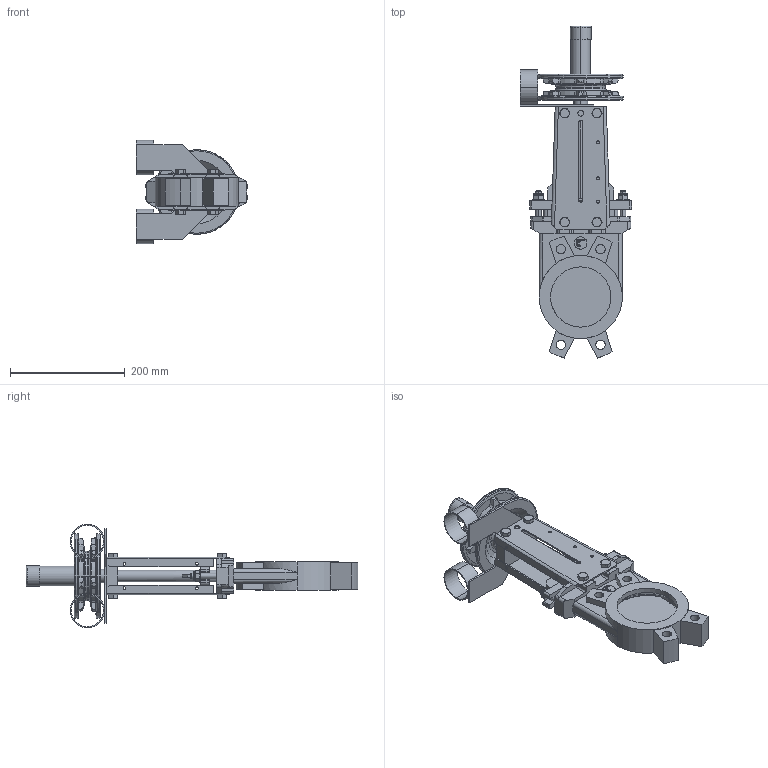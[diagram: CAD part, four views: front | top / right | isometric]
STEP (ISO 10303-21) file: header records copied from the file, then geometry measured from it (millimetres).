
FILE_DESCRIPTION (( 'STEP AP203' ), '1' );
FILE_NAME ('VG C DN100.STEP', '2010-01-27T05:50:14', ( 'farex' ), ( '' ), 'SwSTEP 2.0', 'SolidWorks 2009', '' );
FILE_SCHEMA (( 'CONFIG_CONTROL_DESIGN' ));
Length unit declared in the file: millimetre
Products named in the file (1): VG C DN100
Bounding box: 193.5 x 578.16 x 180.3 mm (x, y, z)
Volume: 1810391.6 mm3; surface area: 453740.1 mm2
Topology: 6 solids, 6 shells, 870 faces, 2302 edges, 1492 vertices
Faces by surface type: plane 396, cylinder 241, cone 159, bspline 56, torus 18
Entity records: 31265 total; most frequent: CARTESIAN_POINT 10082, ORIENTED_EDGE 4604, DIRECTION 4158, EDGE_CURVE 2302, AXIS2_PLACEMENT_3D 1522, VERTEX_POINT 1492, VECTOR 1114, LINE 1114
